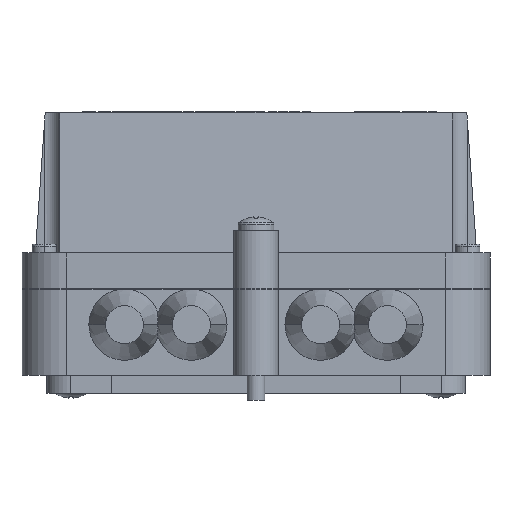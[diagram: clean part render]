
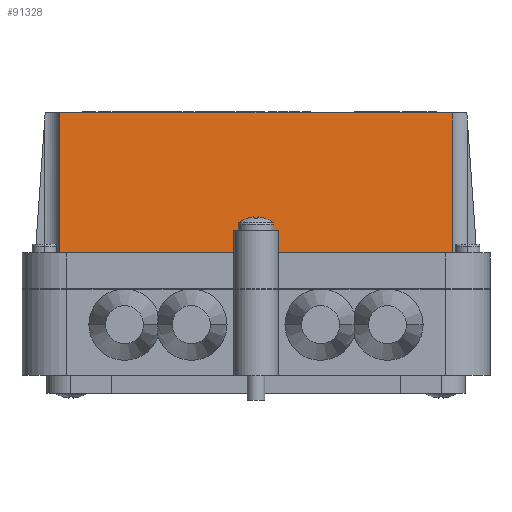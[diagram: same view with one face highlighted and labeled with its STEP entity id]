
A CAD part, front view. The second image highlights one B-rep face of the part: STEP entity #91328.
In plain terms, the highlighted planar face has unit normal (0, -0.998, 0.07) as drawn and (0, 0.07, 0.998) by its records, which use the part's own axes.
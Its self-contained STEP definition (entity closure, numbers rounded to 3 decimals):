
#2422 = CARTESIAN_POINT ( 'NONE',  ( -44., 57.068, 52.432 ) ) ;
#2957 = VERTEX_POINT ( 'NONE', #21925 ) ;
#12991 = ORIENTED_EDGE ( 'NONE', *, *, #187038, .F. ) ;
#13022 = VECTOR ( 'NONE', #159346, 1000. ) ;
#14964 =( BOUNDED_CURVE ( )  B_SPLINE_CURVE ( 3, ( #51828, #198778, #2422, #168607 ),
 .UNSPECIFIED., .F., .F. ) 
 B_SPLINE_CURVE_WITH_KNOTS ( ( 4, 4 ),
 ( 1.513, 1.571 ),
 .UNSPECIFIED. ) 
 CURVE ( )  GEOMETRIC_REPRESENTATION_ITEM ( )  RATIONAL_B_SPLINE_CURVE ( ( 1., 1., 1., 1. ) ) 
 REPRESENTATION_ITEM ( '' )  );
#16065 = EDGE_CURVE ( 'NONE', #82480, #81520, #109955, .T. ) ;
#18944 = DIRECTION ( 'NONE',  ( 1., 0., 0. ) ) ;
#19828 = VECTOR ( 'NONE', #155401, 1000. ) ;
#21925 = CARTESIAN_POINT ( 'NONE',  ( 5., 32.5, 54.15 ) ) ;
#26698 = LINE ( 'NONE', #126494, #177087 ) ;
#28416 = CARTESIAN_POINT ( 'NONE',  ( 44.006, 59., 52.297 ) ) ;
#30764 = ORIENTED_EDGE ( 'NONE', *, *, #71919, .T. ) ;
#31030 = ORIENTED_EDGE ( 'NONE', *, *, #16065, .T. ) ;
#34463 = CARTESIAN_POINT ( 'NONE',  ( -49.5, 27.5, 54.5 ) ) ;
#35359 = CARTESIAN_POINT ( 'NONE',  ( -44., 56.101, 52.5 ) ) ;
#37862 = VECTOR ( 'NONE', #186363, 1000. ) ;
#42469 = LINE ( 'NONE', #60748, #13022 ) ;
#43039 = ORIENTED_EDGE ( 'NONE', *, *, #100043, .T. ) ;
#46444 = ORIENTED_EDGE ( 'NONE', *, *, #131456, .F. ) ;
#51828 = CARTESIAN_POINT ( 'NONE',  ( -44.006, 59., 52.297 ) ) ;
#60748 = CARTESIAN_POINT ( 'NONE',  ( -5., 27.5, 54.5 ) ) ;
#67191 = CARTESIAN_POINT ( 'NONE',  ( 49.5, 59., 52.297 ) ) ;
#67429 = ORIENTED_EDGE ( 'NONE', *, *, #148268, .T. ) ;
#71474 = VECTOR ( 'NONE', #150852, 1000. ) ;
#71919 = EDGE_CURVE ( 'NONE', #165684, #86041, #103566, .T. ) ;
#76305 = VECTOR ( 'NONE', #175361, 1000. ) ;
#76604 = CARTESIAN_POINT ( 'NONE',  ( 44., 57.068, 52.432 ) ) ;
#76707 = EDGE_LOOP ( 'NONE', ( #30764, #179397, #148626, #211679, #43039, #31030, #12991, #67429, #46444, #196875 ) ) ;
#78075 = CARTESIAN_POINT ( 'NONE',  ( 5., 27.5, 54.5 ) ) ;
#80668 =( BOUNDED_CURVE ( )  B_SPLINE_CURVE ( 3, ( #179477, #76604, #177343, #28416 ),
 .UNSPECIFIED., .F., .F. ) 
 B_SPLINE_CURVE_WITH_KNOTS ( ( 4, 4 ),
 ( 4.712, 4.77 ),
 .UNSPECIFIED. ) 
 CURVE ( )  GEOMETRIC_REPRESENTATION_ITEM ( )  RATIONAL_B_SPLINE_CURVE ( ( 1., 1., 1., 1. ) ) 
 REPRESENTATION_ITEM ( '' )  );
#81136 = CARTESIAN_POINT ( 'NONE',  ( -5., 27.5, 54.5 ) ) ;
#81254 = CARTESIAN_POINT ( 'NONE',  ( -44., 27.5, 54.5 ) ) ;
#81520 = VERTEX_POINT ( 'NONE', #81136 ) ;
#82480 = VERTEX_POINT ( 'NONE', #81254 ) ;
#86041 = VERTEX_POINT ( 'NONE', #95807 ) ;
#91328 = ADVANCED_FACE ( 'NONE', ( #162790 ), #115654, .T. ) ;
#93190 = LINE ( 'NONE', #67191, #181028 ) ;
#94072 = DIRECTION ( 'NONE',  ( 0., -0.998, 0.07 ) ) ;
#94531 = VERTEX_POINT ( 'NONE', #140048 ) ;
#95807 = CARTESIAN_POINT ( 'NONE',  ( 44., 56.101, 52.5 ) ) ;
#100043 = EDGE_CURVE ( 'NONE', #119296, #82480, #26698, .T. ) ;
#103566 = LINE ( 'NONE', #204493, #71474 ) ;
#105373 = LINE ( 'NONE', #157944, #105630 ) ;
#105630 = VECTOR ( 'NONE', #139793, 1000. ) ;
#109016 = EDGE_CURVE ( 'NONE', #94531, #200988, #93190, .T. ) ;
#109955 = LINE ( 'NONE', #193687, #76305 ) ;
#114434 = VERTEX_POINT ( 'NONE', #154706 ) ;
#115654 = PLANE ( 'NONE',  #117450 ) ;
#117450 = AXIS2_PLACEMENT_3D ( 'NONE', #188483, #202529, #186366 ) ;
#119296 = VERTEX_POINT ( 'NONE', #35359 ) ;
#124032 = VERTEX_POINT ( 'NONE', #199043 ) ;
#126494 = CARTESIAN_POINT ( 'NONE',  ( -44., 27.5, 54.5 ) ) ;
#131456 = EDGE_CURVE ( 'NONE', #124032, #2957, #172437, .T. ) ;
#132059 = LINE ( 'NONE', #34463, #37862 ) ;
#139793 = DIRECTION ( 'NONE',  ( 1., 0., 0. ) ) ;
#140048 = CARTESIAN_POINT ( 'NONE',  ( -44.006, 59., 52.297 ) ) ;
#148268 = EDGE_CURVE ( 'NONE', #114434, #2957, #105373, .T. ) ;
#148626 = ORIENTED_EDGE ( 'NONE', *, *, #109016, .F. ) ;
#150852 = DIRECTION ( 'NONE',  ( 0., 0.998, -0.07 ) ) ;
#154706 = CARTESIAN_POINT ( 'NONE',  ( -5., 32.5, 54.15 ) ) ;
#155401 = DIRECTION ( 'NONE',  ( 0., 0.998, -0.07 ) ) ;
#157436 = EDGE_CURVE ( 'NONE', #94531, #119296, #14964, .T. ) ;
#157726 = EDGE_CURVE ( 'NONE', #124032, #165684, #132059, .T. ) ;
#157944 = CARTESIAN_POINT ( 'NONE',  ( -49.5, 32.5, 54.15 ) ) ;
#158994 = CARTESIAN_POINT ( 'NONE',  ( 44.006, 59., 52.297 ) ) ;
#159346 = DIRECTION ( 'NONE',  ( 0., -0.998, 0.07 ) ) ;
#162790 = FACE_OUTER_BOUND ( 'NONE', #76707, .T. ) ;
#163140 = CARTESIAN_POINT ( 'NONE',  ( 44., 27.5, 54.5 ) ) ;
#165684 = VERTEX_POINT ( 'NONE', #163140 ) ;
#168607 = CARTESIAN_POINT ( 'NONE',  ( -44., 56.101, 52.5 ) ) ;
#172437 = LINE ( 'NONE', #78075, #19828 ) ;
#175361 = DIRECTION ( 'NONE',  ( 1., 0., 0. ) ) ;
#175902 = EDGE_CURVE ( 'NONE', #86041, #200988, #80668, .T. ) ;
#177087 = VECTOR ( 'NONE', #94072, 1000. ) ;
#177343 = CARTESIAN_POINT ( 'NONE',  ( 44.002, 58.035, 52.365 ) ) ;
#179397 = ORIENTED_EDGE ( 'NONE', *, *, #175902, .T. ) ;
#179477 = CARTESIAN_POINT ( 'NONE',  ( 44., 56.101, 52.5 ) ) ;
#181028 = VECTOR ( 'NONE', #18944, 1000. ) ;
#186363 = DIRECTION ( 'NONE',  ( 1., 0., 0. ) ) ;
#186366 = DIRECTION ( 'NONE',  ( 1., 0., 0. ) ) ;
#187038 = EDGE_CURVE ( 'NONE', #114434, #81520, #42469, .T. ) ;
#188483 = CARTESIAN_POINT ( 'NONE',  ( -49.5, 27.5, 54.5 ) ) ;
#193687 = CARTESIAN_POINT ( 'NONE',  ( -49.5, 27.5, 54.5 ) ) ;
#196875 = ORIENTED_EDGE ( 'NONE', *, *, #157726, .T. ) ;
#198778 = CARTESIAN_POINT ( 'NONE',  ( -44.002, 58.035, 52.365 ) ) ;
#199043 = CARTESIAN_POINT ( 'NONE',  ( 5., 27.5, 54.5 ) ) ;
#200988 = VERTEX_POINT ( 'NONE', #158994 ) ;
#202529 = DIRECTION ( 'NONE',  ( 0., 0.07, 0.998 ) ) ;
#204493 = CARTESIAN_POINT ( 'NONE',  ( 44., 27.5, 54.5 ) ) ;
#211679 = ORIENTED_EDGE ( 'NONE', *, *, #157436, .T. ) ;
